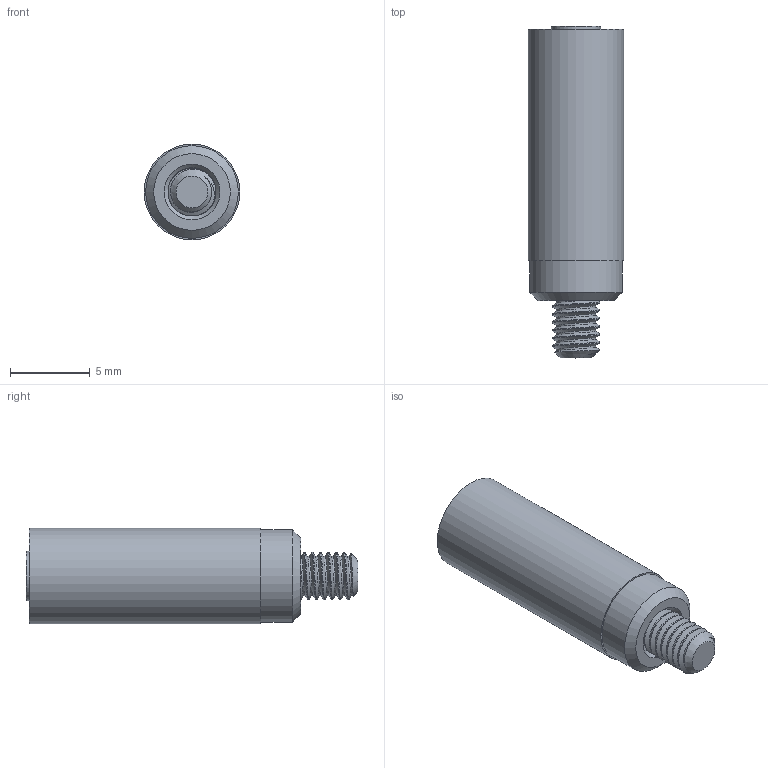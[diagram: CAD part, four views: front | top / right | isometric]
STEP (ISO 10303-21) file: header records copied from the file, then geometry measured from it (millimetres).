
FILE_DESCRIPTION (( 'STEP AP214' ), '1' );
FILE_NAME ('DAF-6.STEP', '2018-10-09T17:58:48', ( '' ), ( '' ), 'SwSTEP 2.0', 'SolidWorks 2017', '' );
FILE_SCHEMA (( 'AUTOMOTIVE_DESIGN' ));
Length unit declared in the file: millimetre
Products named in the file (1): DAF-6
Bounding box: 6 x 20.8 x 6 mm (x, y, z)
Volume: 489.8 mm3; surface area: 534.9 mm2
Topology: 2 solids, 2 shells, 105 faces, 270 edges, 180 vertices
Faces by surface type: plane 53, cylinder 40, cone 6, bspline 6
Full cylindrical faces by diameter (mm): 2.5 x6, 3.1 x1, 5.8 x1, 6 x1
Entity records: 9675 total; most frequent: CARTESIAN_POINT 6514, ORIENTED_EDGE 466, DIRECTION 353, EDGE_CURVE 233, VERTEX_POINT 159, LINE 141, VECTOR 141, EDGE_LOOP 116
